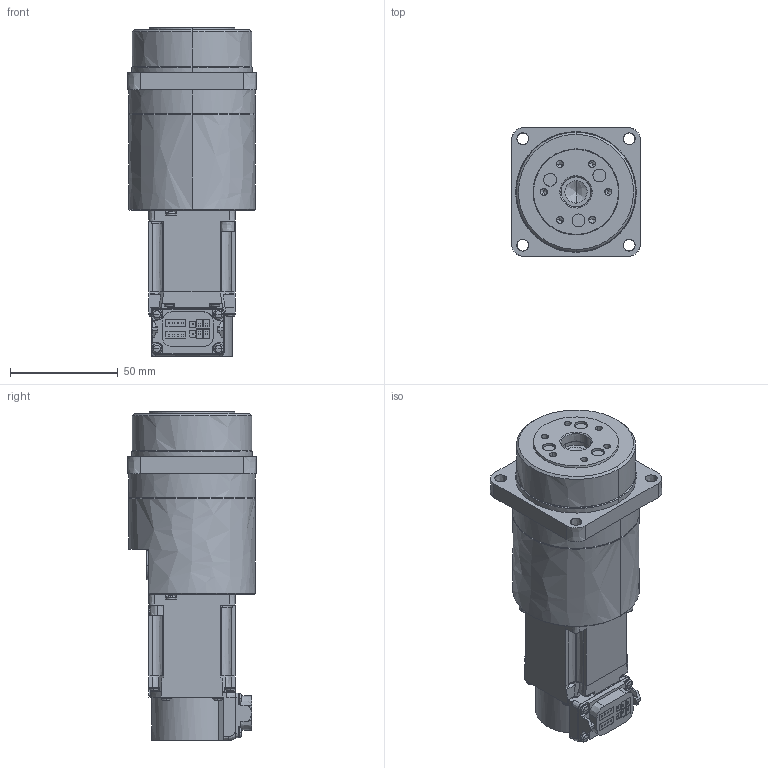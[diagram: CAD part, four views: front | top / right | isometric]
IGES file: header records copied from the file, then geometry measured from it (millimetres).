
Start section:  PTC IGES file: bc70044_hk-kt13wg5-14a-05.igs
Global section: file name: bc70044_hk-kt13wg5-14a-05.igs; native system: Creo Parametric by PTC Inc.; preprocessor: 2018220; author: pc0000; organization: Unknown; date: 20190620.160311; units: millimetre
Bounding box: 60 x 60 x 153 mm (x, y, z)
Volume: 320271.7 mm3; surface area: 36686 mm2
Topology: 1 solids, 1 shells, 577 faces, 1481 edges, 921 vertices
Faces by surface type: bspline 577
